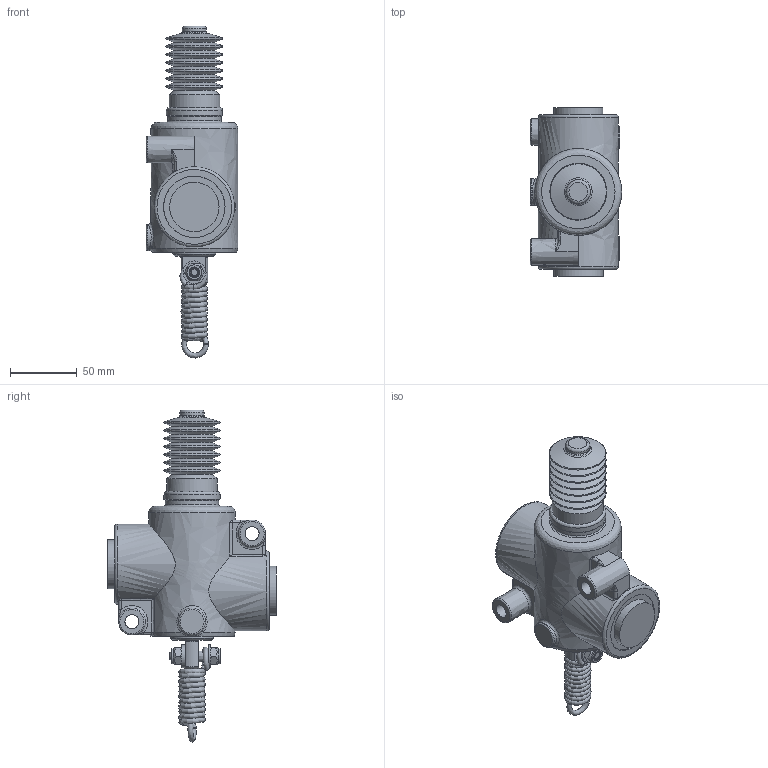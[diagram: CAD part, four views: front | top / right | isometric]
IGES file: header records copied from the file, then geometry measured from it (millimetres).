
Global section: file name: No Iges File Name specified; native system: Autodesk Inventor 2013; preprocessor: AutoDesk Inventor Iges Exporter R2013; author: christian.scardovi; date: 20240927.134005; units: millimetre
Bounding box: 68.5 x 126 x 248.7 mm (x, y, z)
Volume: 615263.3 mm3; surface area: 70998.9 mm2
Topology: 1 solids, 1 shells, 214 faces, 509 edges, 312 vertices
Faces by surface type: bspline 214
